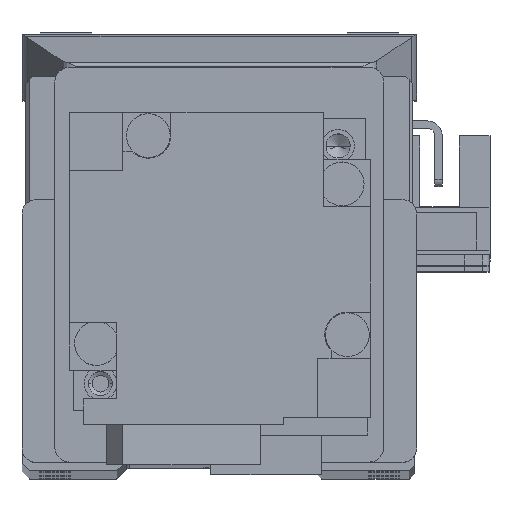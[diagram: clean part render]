
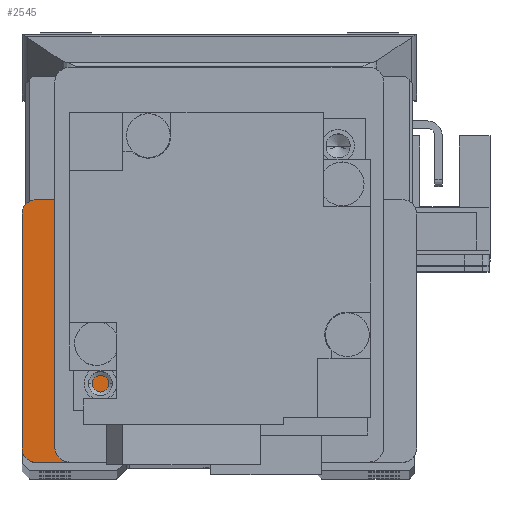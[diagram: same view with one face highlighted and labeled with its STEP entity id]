
A CAD part, top view. The second image highlights one B-rep face of the part: STEP entity #2545.
In plain terms, the highlighted planar face has unit normal (0, 0, 1) as drawn and (0, 0, -1) by its records, which use the part's own axes.
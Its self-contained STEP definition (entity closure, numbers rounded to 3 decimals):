
#394 = EDGE_CURVE ( 'NONE', #8717, #16042, #8666, .T. ) ;
#1098 = FACE_OUTER_BOUND ( 'NONE', #32255, .T. ) ;
#1159 = CARTESIAN_POINT ( 'NONE',  ( 25., -25., 16.25 ) ) ;
#1661 = CARTESIAN_POINT ( 'NONE',  ( 27., 27., 16.25 ) ) ;
#1860 = DIRECTION ( 'NONE',  ( 1., 0., 0. ) ) ;
#2311 = EDGE_CURVE ( 'NONE', #37060, #11471, #3381, .T. ) ;
#2545 = ADVANCED_FACE ( 'NONE', ( #1098 ), #33482, .F. ) ;
#2777 = ORIENTED_EDGE ( 'NONE', *, *, #30738, .F. ) ;
#3381 = LINE ( 'NONE', #10226, #9276 ) ;
#3396 = AXIS2_PLACEMENT_3D ( 'NONE', #1159, #21408, #9757 ) ;
#3599 = ORIENTED_EDGE ( 'NONE', *, *, #33900, .T. ) ;
#3791 = EDGE_CURVE ( 'NONE', #19073, #4825, #6971, .T. ) ;
#4018 = DIRECTION ( 'NONE',  ( 1., 0., 0. ) ) ;
#4024 = EDGE_CURVE ( 'NONE', #8717, #23815, #12395, .T. ) ;
#4268 = CARTESIAN_POINT ( 'NONE',  ( -25., -27., 16.25 ) ) ;
#4778 = CARTESIAN_POINT ( 'NONE',  ( 11., -27., 16.25 ) ) ;
#4825 = VERTEX_POINT ( 'NONE', #15359 ) ;
#6487 = VECTOR ( 'NONE', #21776, 1000. ) ;
#6971 = CIRCLE ( 'NONE', #3396, 2. ) ;
#7576 = LINE ( 'NONE', #4778, #34968 ) ;
#8666 = CIRCLE ( 'NONE', #27093, 2. ) ;
#8717 = VERTEX_POINT ( 'NONE', #25994 ) ;
#8732 = DIRECTION ( 'NONE',  ( 1., 0., 0. ) ) ;
#9276 = VECTOR ( 'NONE', #15989, 1000. ) ;
#9757 = DIRECTION ( 'NONE',  ( 1., 0., 0. ) ) ;
#10226 = CARTESIAN_POINT ( 'NONE',  ( 22.5, -12., 16.25 ) ) ;
#11471 = VERTEX_POINT ( 'NONE', #28997 ) ;
#12170 = CARTESIAN_POINT ( 'NONE',  ( 22.5, 27., 16.25 ) ) ;
#12395 = LINE ( 'NONE', #26200, #31693 ) ;
#12405 = LINE ( 'NONE', #4268, #29864 ) ;
#12646 = CARTESIAN_POINT ( 'NONE',  ( 22.5, 9., 16.25 ) ) ;
#14243 = LINE ( 'NONE', #12170, #14671 ) ;
#14671 = VECTOR ( 'NONE', #20930, 1000. ) ;
#15185 = ORIENTED_EDGE ( 'NONE', *, *, #15851, .T. ) ;
#15359 = CARTESIAN_POINT ( 'NONE',  ( 27., -25., 16.25 ) ) ;
#15851 = EDGE_CURVE ( 'NONE', #37060, #23815, #14243, .T. ) ;
#15989 = DIRECTION ( 'NONE',  ( -1., 0., 0. ) ) ;
#16042 = VERTEX_POINT ( 'NONE', #22282 ) ;
#16212 = CARTESIAN_POINT ( 'NONE',  ( 25., -25., 16.25 ) ) ;
#17558 = ORIENTED_EDGE ( 'NONE', *, *, #2311, .F. ) ;
#17896 = ORIENTED_EDGE ( 'NONE', *, *, #31756, .F. ) ;
#19073 = VERTEX_POINT ( 'NONE', #27969 ) ;
#19092 = DIRECTION ( 'NONE',  ( 0., 0., 1. ) ) ;
#19574 = LINE ( 'NONE', #1661, #6487 ) ;
#19667 = AXIS2_PLACEMENT_3D ( 'NONE', #21235, #29871, #33014 ) ;
#20468 = VERTEX_POINT ( 'NONE', #30505 ) ;
#20930 = DIRECTION ( 'NONE',  ( 0., 1., 0. ) ) ;
#20940 = AXIS2_PLACEMENT_3D ( 'NONE', #16212, #19092, #1860 ) ;
#21235 = CARTESIAN_POINT ( 'NONE',  ( 16., -17., 16.25 ) ) ;
#21335 = ORIENTED_EDGE ( 'NONE', *, *, #3791, .F. ) ;
#21408 = DIRECTION ( 'NONE',  ( 0., 0., 1. ) ) ;
#21776 = DIRECTION ( 'NONE',  ( 0., -1., 0. ) ) ;
#21993 = VERTEX_POINT ( 'NONE', #35134 ) ;
#22282 = CARTESIAN_POINT ( 'NONE',  ( 27., 7., 16.25 ) ) ;
#23026 = DIRECTION ( 'NONE',  ( 0., 0., -1. ) ) ;
#23384 = CARTESIAN_POINT ( 'NONE',  ( 22.5, -12., 16.25 ) ) ;
#23815 = VERTEX_POINT ( 'NONE', #12646 ) ;
#25994 = CARTESIAN_POINT ( 'NONE',  ( 25., 9., 16.25 ) ) ;
#26200 = CARTESIAN_POINT ( 'NONE',  ( 25., 9., 16.25 ) ) ;
#26860 = ORIENTED_EDGE ( 'NONE', *, *, #29165, .F. ) ;
#27093 = AXIS2_PLACEMENT_3D ( 'NONE', #28540, #23026, #8732 ) ;
#27969 = CARTESIAN_POINT ( 'NONE',  ( 25., -27., 16.25 ) ) ;
#28367 = CIRCLE ( 'NONE', #19667, 5. ) ;
#28540 = CARTESIAN_POINT ( 'NONE',  ( 25., 7., 16.25 ) ) ;
#28997 = CARTESIAN_POINT ( 'NONE',  ( 16., -12., 16.25 ) ) ;
#29066 = DIRECTION ( 'NONE',  ( -1., 0., 0. ) ) ;
#29165 = EDGE_CURVE ( 'NONE', #21993, #20468, #7576, .T. ) ;
#29864 = VECTOR ( 'NONE', #4018, 1000. ) ;
#29871 = DIRECTION ( 'NONE',  ( 0., 0., 1. ) ) ;
#30505 = CARTESIAN_POINT ( 'NONE',  ( 11., -27., 16.25 ) ) ;
#30738 = EDGE_CURVE ( 'NONE', #20468, #19073, #12405, .T. ) ;
#31693 = VECTOR ( 'NONE', #29066, 1000. ) ;
#31756 = EDGE_CURVE ( 'NONE', #11471, #21993, #28367, .T. ) ;
#32255 = EDGE_LOOP ( 'NONE', ( #17558, #15185, #34111, #32314, #3599, #21335, #2777, #26860, #17896 ) ) ;
#32314 = ORIENTED_EDGE ( 'NONE', *, *, #394, .T. ) ;
#33014 = DIRECTION ( 'NONE',  ( 1., 0., 0. ) ) ;
#33482 = PLANE ( 'NONE',  #20940 ) ;
#33900 = EDGE_CURVE ( 'NONE', #16042, #4825, #19574, .T. ) ;
#34111 = ORIENTED_EDGE ( 'NONE', *, *, #4024, .F. ) ;
#34968 = VECTOR ( 'NONE', #36662, 1000. ) ;
#35134 = CARTESIAN_POINT ( 'NONE',  ( 11., -17., 16.25 ) ) ;
#36662 = DIRECTION ( 'NONE',  ( 0., -1., 0. ) ) ;
#37060 = VERTEX_POINT ( 'NONE', #23384 ) ;
